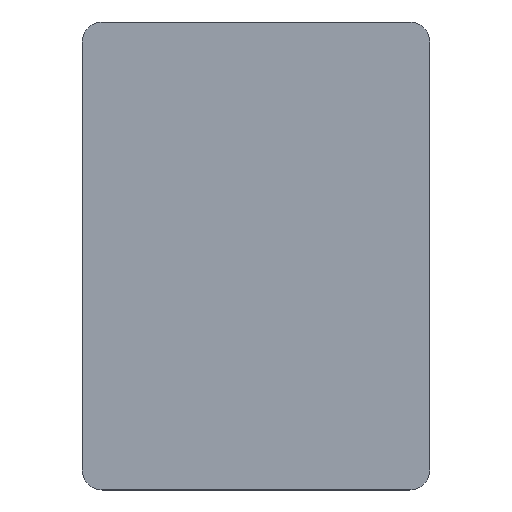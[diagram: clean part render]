
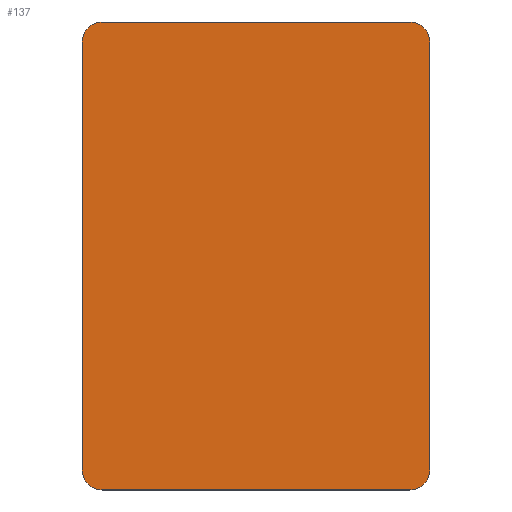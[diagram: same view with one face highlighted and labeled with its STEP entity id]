
A CAD part, top view. The second image highlights one B-rep face of the part: STEP entity #137.
In plain terms, the highlighted planar face has unit normal (0, 0, 1).
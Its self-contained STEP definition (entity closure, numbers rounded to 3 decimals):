
#21 = EDGE_CURVE('',#22,#24,#26,.T.);
#22 = VERTEX_POINT('',#23);
#23 = CARTESIAN_POINT('',(-26.,-36.,9.2));
#24 = VERTEX_POINT('',#25);
#25 = CARTESIAN_POINT('',(-26.,28.,9.2));
#26 = SURFACE_CURVE('',#27,(#31,#43),.PCURVE_S1.);
#27 = LINE('',#28,#29);
#28 = CARTESIAN_POINT('',(-26.,-39.,9.2));
#29 = VECTOR('',#30,1.);
#30 = DIRECTION('',(0.,1.,0.));
#31 = PCURVE('',#32,#37);
#32 = PLANE('',#33);
#33 = AXIS2_PLACEMENT_3D('',#34,#35,#36);
#34 = CARTESIAN_POINT('',(-26.,-39.,3.2));
#35 = DIRECTION('',(1.,0.,0.));
#36 = DIRECTION('',(0.,0.,1.));
#37 = DEFINITIONAL_REPRESENTATION('',(#38),#42);
#38 = LINE('',#39,#40);
#39 = CARTESIAN_POINT('',(6.,0.));
#40 = VECTOR('',#41,1.);
#41 = DIRECTION('',(0.,-1.));
#42 = ( GEOMETRIC_REPRESENTATION_CONTEXT(2) 
PARAMETRIC_REPRESENTATION_CONTEXT() REPRESENTATION_CONTEXT('2D SPACE',''
  ) );
#43 = PCURVE('',#44,#49);
#44 = PLANE('',#45);
#45 = AXIS2_PLACEMENT_3D('',#46,#47,#48);
#46 = CARTESIAN_POINT('',(-26.,-39.,9.2));
#47 = DIRECTION('',(0.,0.,1.));
#48 = DIRECTION('',(1.,0.,-0.));
#49 = DEFINITIONAL_REPRESENTATION('',(#50),#54);
#50 = LINE('',#51,#52);
#51 = CARTESIAN_POINT('',(0.,0.));
#52 = VECTOR('',#53,1.);
#53 = DIRECTION('',(0.,1.));
#54 = ( GEOMETRIC_REPRESENTATION_CONTEXT(2) 
PARAMETRIC_REPRESENTATION_CONTEXT() REPRESENTATION_CONTEXT('2D SPACE',''
  ) );
#72 = CYLINDRICAL_SURFACE('',#73,3.);
#73 = AXIS2_PLACEMENT_3D('',#74,#75,#76);
#74 = CARTESIAN_POINT('',(-23.,-36.,3.2));
#75 = DIRECTION('',(0.,0.,1.));
#76 = DIRECTION('',(-1.,-0.,0.));
#126 = CYLINDRICAL_SURFACE('',#127,3.);
#127 = AXIS2_PLACEMENT_3D('',#128,#129,#130);
#128 = CARTESIAN_POINT('',(-23.,28.,3.2));
#129 = DIRECTION('',(0.,0.,1.));
#130 = DIRECTION('',(-1.,-0.,0.));
#137 = ADVANCED_FACE('',(#138),#44,.T.);
#138 = FACE_BOUND('',#139,.T.);
#139 = EDGE_LOOP('',(#140,#141,#165,#193,#226,#254,#283,#311));
#140 = ORIENTED_EDGE('',*,*,#21,.F.);
#141 = ORIENTED_EDGE('',*,*,#142,.T.);
#142 = EDGE_CURVE('',#22,#143,#145,.T.);
#143 = VERTEX_POINT('',#144);
#144 = CARTESIAN_POINT('',(-23.,-39.,9.2));
#145 = SURFACE_CURVE('',#146,(#151,#158),.PCURVE_S1.);
#146 = CIRCLE('',#147,3.);
#147 = AXIS2_PLACEMENT_3D('',#148,#149,#150);
#148 = CARTESIAN_POINT('',(-23.,-36.,9.2));
#149 = DIRECTION('',(0.,0.,1.));
#150 = DIRECTION('',(0.,-1.,0.));
#151 = PCURVE('',#44,#152);
#152 = DEFINITIONAL_REPRESENTATION('',(#153),#157);
#153 = CIRCLE('',#154,3.);
#154 = AXIS2_PLACEMENT_2D('',#155,#156);
#155 = CARTESIAN_POINT('',(3.,3.));
#156 = DIRECTION('',(0.,-1.));
#157 = ( GEOMETRIC_REPRESENTATION_CONTEXT(2) 
PARAMETRIC_REPRESENTATION_CONTEXT() REPRESENTATION_CONTEXT('2D SPACE',''
  ) );
#158 = PCURVE('',#72,#159);
#159 = DEFINITIONAL_REPRESENTATION('',(#160),#164);
#160 = LINE('',#161,#162);
#161 = CARTESIAN_POINT('',(-4.712,6.));
#162 = VECTOR('',#163,1.);
#163 = DIRECTION('',(1.,0.));
#164 = ( GEOMETRIC_REPRESENTATION_CONTEXT(2) 
PARAMETRIC_REPRESENTATION_CONTEXT() REPRESENTATION_CONTEXT('2D SPACE',''
  ) );
#165 = ORIENTED_EDGE('',*,*,#166,.T.);
#166 = EDGE_CURVE('',#143,#167,#169,.T.);
#167 = VERTEX_POINT('',#168);
#168 = CARTESIAN_POINT('',(23.,-39.,9.2));
#169 = SURFACE_CURVE('',#170,(#174,#181),.PCURVE_S1.);
#170 = LINE('',#171,#172);
#171 = CARTESIAN_POINT('',(-26.,-39.,9.2));
#172 = VECTOR('',#173,1.);
#173 = DIRECTION('',(1.,0.,0.));
#174 = PCURVE('',#44,#175);
#175 = DEFINITIONAL_REPRESENTATION('',(#176),#180);
#176 = LINE('',#177,#178);
#177 = CARTESIAN_POINT('',(0.,0.));
#178 = VECTOR('',#179,1.);
#179 = DIRECTION('',(1.,0.));
#180 = ( GEOMETRIC_REPRESENTATION_CONTEXT(2) 
PARAMETRIC_REPRESENTATION_CONTEXT() REPRESENTATION_CONTEXT('2D SPACE',''
  ) );
#181 = PCURVE('',#182,#187);
#182 = PLANE('',#183);
#183 = AXIS2_PLACEMENT_3D('',#184,#185,#186);
#184 = CARTESIAN_POINT('',(-26.,-39.,3.2));
#185 = DIRECTION('',(0.,1.,0.));
#186 = DIRECTION('',(0.,-0.,1.));
#187 = DEFINITIONAL_REPRESENTATION('',(#188),#192);
#188 = LINE('',#189,#190);
#189 = CARTESIAN_POINT('',(6.,0.));
#190 = VECTOR('',#191,1.);
#191 = DIRECTION('',(0.,1.));
#192 = ( GEOMETRIC_REPRESENTATION_CONTEXT(2) 
PARAMETRIC_REPRESENTATION_CONTEXT() REPRESENTATION_CONTEXT('2D SPACE',''
  ) );
#193 = ORIENTED_EDGE('',*,*,#194,.F.);
#194 = EDGE_CURVE('',#195,#167,#197,.T.);
#195 = VERTEX_POINT('',#196);
#196 = CARTESIAN_POINT('',(26.,-36.,9.2));
#197 = SURFACE_CURVE('',#198,(#203,#214),.PCURVE_S1.);
#198 = CIRCLE('',#199,3.);
#199 = AXIS2_PLACEMENT_3D('',#200,#201,#202);
#200 = CARTESIAN_POINT('',(23.,-36.,9.2));
#201 = DIRECTION('',(-0.,-0.,-1.));
#202 = DIRECTION('',(0.,-1.,0.));
#203 = PCURVE('',#44,#204);
#204 = DEFINITIONAL_REPRESENTATION('',(#205),#213);
#205 = ( BOUNDED_CURVE() B_SPLINE_CURVE(2,(#206,#207,#208,#209,#210,#211
,#212),.UNSPECIFIED.,.T.,.F.) B_SPLINE_CURVE_WITH_KNOTS((1,2,2,2,2,1),(
    -2.094,0.,2.094,4.189,6.283,
8.378),.UNSPECIFIED.) CURVE() GEOMETRIC_REPRESENTATION_ITEM() 
RATIONAL_B_SPLINE_CURVE((1.,0.5,1.,0.5,1.,0.5,1.)) REPRESENTATION_ITEM(
  '') );
#206 = CARTESIAN_POINT('',(49.,0.));
#207 = CARTESIAN_POINT('',(43.804,0.));
#208 = CARTESIAN_POINT('',(46.402,4.5));
#209 = CARTESIAN_POINT('',(49.,9.));
#210 = CARTESIAN_POINT('',(51.598,4.5));
#211 = CARTESIAN_POINT('',(54.196,0.));
#212 = CARTESIAN_POINT('',(49.,0.));
#213 = ( GEOMETRIC_REPRESENTATION_CONTEXT(2) 
PARAMETRIC_REPRESENTATION_CONTEXT() REPRESENTATION_CONTEXT('2D SPACE',''
  ) );
#214 = PCURVE('',#215,#220);
#215 = CYLINDRICAL_SURFACE('',#216,3.);
#216 = AXIS2_PLACEMENT_3D('',#217,#218,#219);
#217 = CARTESIAN_POINT('',(23.,-36.,3.2));
#218 = DIRECTION('',(0.,0.,1.));
#219 = DIRECTION('',(1.,0.,-0.));
#220 = DEFINITIONAL_REPRESENTATION('',(#221),#225);
#221 = LINE('',#222,#223);
#222 = CARTESIAN_POINT('',(10.996,6.));
#223 = VECTOR('',#224,1.);
#224 = DIRECTION('',(-1.,0.));
#225 = ( GEOMETRIC_REPRESENTATION_CONTEXT(2) 
PARAMETRIC_REPRESENTATION_CONTEXT() REPRESENTATION_CONTEXT('2D SPACE',''
  ) );
#226 = ORIENTED_EDGE('',*,*,#227,.T.);
#227 = EDGE_CURVE('',#195,#228,#230,.T.);
#228 = VERTEX_POINT('',#229);
#229 = CARTESIAN_POINT('',(26.,28.,9.2));
#230 = SURFACE_CURVE('',#231,(#235,#242),.PCURVE_S1.);
#231 = LINE('',#232,#233);
#232 = CARTESIAN_POINT('',(26.,-39.,9.2));
#233 = VECTOR('',#234,1.);
#234 = DIRECTION('',(0.,1.,0.));
#235 = PCURVE('',#44,#236);
#236 = DEFINITIONAL_REPRESENTATION('',(#237),#241);
#237 = LINE('',#238,#239);
#238 = CARTESIAN_POINT('',(52.,0.));
#239 = VECTOR('',#240,1.);
#240 = DIRECTION('',(0.,1.));
#241 = ( GEOMETRIC_REPRESENTATION_CONTEXT(2) 
PARAMETRIC_REPRESENTATION_CONTEXT() REPRESENTATION_CONTEXT('2D SPACE',''
  ) );
#242 = PCURVE('',#243,#248);
#243 = PLANE('',#244);
#244 = AXIS2_PLACEMENT_3D('',#245,#246,#247);
#245 = CARTESIAN_POINT('',(26.,-39.,3.2));
#246 = DIRECTION('',(1.,0.,0.));
#247 = DIRECTION('',(0.,0.,1.));
#248 = DEFINITIONAL_REPRESENTATION('',(#249),#253);
#249 = LINE('',#250,#251);
#250 = CARTESIAN_POINT('',(6.,0.));
#251 = VECTOR('',#252,1.);
#252 = DIRECTION('',(0.,-1.));
#253 = ( GEOMETRIC_REPRESENTATION_CONTEXT(2) 
PARAMETRIC_REPRESENTATION_CONTEXT() REPRESENTATION_CONTEXT('2D SPACE',''
  ) );
#254 = ORIENTED_EDGE('',*,*,#255,.T.);
#255 = EDGE_CURVE('',#228,#256,#258,.T.);
#256 = VERTEX_POINT('',#257);
#257 = CARTESIAN_POINT('',(23.,31.,9.2));
#258 = SURFACE_CURVE('',#259,(#264,#271),.PCURVE_S1.);
#259 = CIRCLE('',#260,3.);
#260 = AXIS2_PLACEMENT_3D('',#261,#262,#263);
#261 = CARTESIAN_POINT('',(23.,28.,9.2));
#262 = DIRECTION('',(0.,0.,1.));
#263 = DIRECTION('',(0.,-1.,0.));
#264 = PCURVE('',#44,#265);
#265 = DEFINITIONAL_REPRESENTATION('',(#266),#270);
#266 = CIRCLE('',#267,3.);
#267 = AXIS2_PLACEMENT_2D('',#268,#269);
#268 = CARTESIAN_POINT('',(49.,67.));
#269 = DIRECTION('',(0.,-1.));
#270 = ( GEOMETRIC_REPRESENTATION_CONTEXT(2) 
PARAMETRIC_REPRESENTATION_CONTEXT() REPRESENTATION_CONTEXT('2D SPACE',''
  ) );
#271 = PCURVE('',#272,#277);
#272 = CYLINDRICAL_SURFACE('',#273,3.);
#273 = AXIS2_PLACEMENT_3D('',#274,#275,#276);
#274 = CARTESIAN_POINT('',(23.,28.,3.2));
#275 = DIRECTION('',(0.,0.,1.));
#276 = DIRECTION('',(1.,0.,-0.));
#277 = DEFINITIONAL_REPRESENTATION('',(#278),#282);
#278 = LINE('',#279,#280);
#279 = CARTESIAN_POINT('',(-1.571,6.));
#280 = VECTOR('',#281,1.);
#281 = DIRECTION('',(1.,0.));
#282 = ( GEOMETRIC_REPRESENTATION_CONTEXT(2) 
PARAMETRIC_REPRESENTATION_CONTEXT() REPRESENTATION_CONTEXT('2D SPACE',''
  ) );
#283 = ORIENTED_EDGE('',*,*,#284,.F.);
#284 = EDGE_CURVE('',#285,#256,#287,.T.);
#285 = VERTEX_POINT('',#286);
#286 = CARTESIAN_POINT('',(-23.,31.,9.2));
#287 = SURFACE_CURVE('',#288,(#292,#299),.PCURVE_S1.);
#288 = LINE('',#289,#290);
#289 = CARTESIAN_POINT('',(-26.,31.,9.2));
#290 = VECTOR('',#291,1.);
#291 = DIRECTION('',(1.,0.,0.));
#292 = PCURVE('',#44,#293);
#293 = DEFINITIONAL_REPRESENTATION('',(#294),#298);
#294 = LINE('',#295,#296);
#295 = CARTESIAN_POINT('',(0.,70.));
#296 = VECTOR('',#297,1.);
#297 = DIRECTION('',(1.,0.));
#298 = ( GEOMETRIC_REPRESENTATION_CONTEXT(2) 
PARAMETRIC_REPRESENTATION_CONTEXT() REPRESENTATION_CONTEXT('2D SPACE',''
  ) );
#299 = PCURVE('',#300,#305);
#300 = PLANE('',#301);
#301 = AXIS2_PLACEMENT_3D('',#302,#303,#304);
#302 = CARTESIAN_POINT('',(-26.,31.,3.2));
#303 = DIRECTION('',(0.,1.,0.));
#304 = DIRECTION('',(0.,-0.,1.));
#305 = DEFINITIONAL_REPRESENTATION('',(#306),#310);
#306 = LINE('',#307,#308);
#307 = CARTESIAN_POINT('',(6.,0.));
#308 = VECTOR('',#309,1.);
#309 = DIRECTION('',(0.,1.));
#310 = ( GEOMETRIC_REPRESENTATION_CONTEXT(2) 
PARAMETRIC_REPRESENTATION_CONTEXT() REPRESENTATION_CONTEXT('2D SPACE',''
  ) );
#311 = ORIENTED_EDGE('',*,*,#312,.F.);
#312 = EDGE_CURVE('',#24,#285,#313,.T.);
#313 = SURFACE_CURVE('',#314,(#319,#330),.PCURVE_S1.);
#314 = CIRCLE('',#315,3.);
#315 = AXIS2_PLACEMENT_3D('',#316,#317,#318);
#316 = CARTESIAN_POINT('',(-23.,28.,9.2));
#317 = DIRECTION('',(-0.,-0.,-1.));
#318 = DIRECTION('',(0.,-1.,0.));
#319 = PCURVE('',#44,#320);
#320 = DEFINITIONAL_REPRESENTATION('',(#321),#329);
#321 = ( BOUNDED_CURVE() B_SPLINE_CURVE(2,(#322,#323,#324,#325,#326,#327
,#328),.UNSPECIFIED.,.T.,.F.) B_SPLINE_CURVE_WITH_KNOTS((1,2,2,2,2,1),(
    -2.094,0.,2.094,4.189,6.283,
8.378),.UNSPECIFIED.) CURVE() GEOMETRIC_REPRESENTATION_ITEM() 
RATIONAL_B_SPLINE_CURVE((1.,0.5,1.,0.5,1.,0.5,1.)) REPRESENTATION_ITEM(
  '') );
#322 = CARTESIAN_POINT('',(3.,64.));
#323 = CARTESIAN_POINT('',(-2.196,64.));
#324 = CARTESIAN_POINT('',(0.402,68.5));
#325 = CARTESIAN_POINT('',(3.,73.));
#326 = CARTESIAN_POINT('',(5.598,68.5));
#327 = CARTESIAN_POINT('',(8.196,64.));
#328 = CARTESIAN_POINT('',(3.,64.));
#329 = ( GEOMETRIC_REPRESENTATION_CONTEXT(2) 
PARAMETRIC_REPRESENTATION_CONTEXT() REPRESENTATION_CONTEXT('2D SPACE',''
  ) );
#330 = PCURVE('',#126,#331);
#331 = DEFINITIONAL_REPRESENTATION('',(#332),#336);
#332 = LINE('',#333,#334);
#333 = CARTESIAN_POINT('',(7.854,6.));
#334 = VECTOR('',#335,1.);
#335 = DIRECTION('',(-1.,0.));
#336 = ( GEOMETRIC_REPRESENTATION_CONTEXT(2) 
PARAMETRIC_REPRESENTATION_CONTEXT() REPRESENTATION_CONTEXT('2D SPACE',''
  ) );
